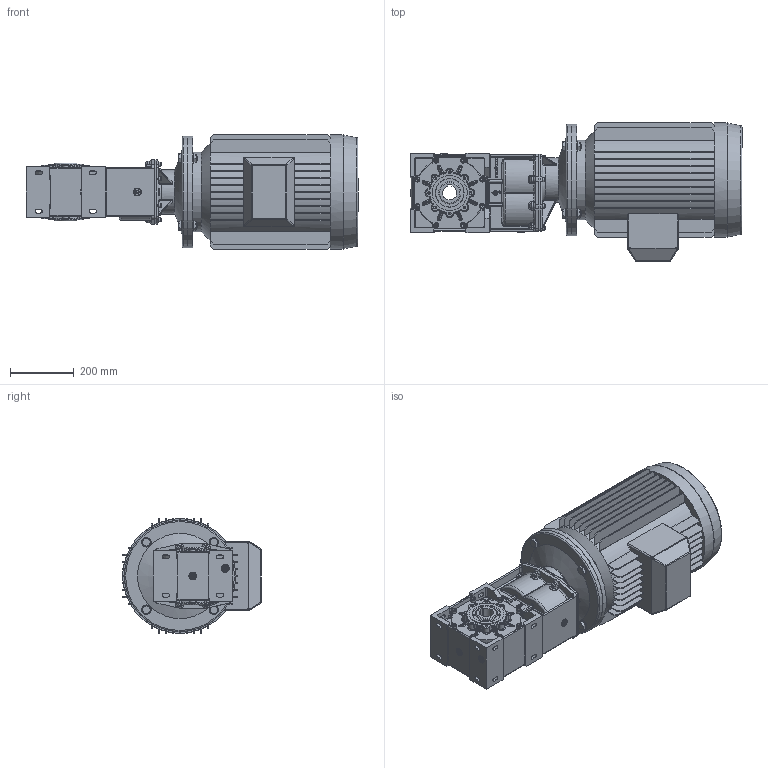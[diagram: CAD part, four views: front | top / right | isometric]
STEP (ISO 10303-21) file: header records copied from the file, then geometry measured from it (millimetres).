
FILE_DESCRIPTION((''),'2;1');
FILE_NAME('F:\Ghirri\3D\MO_RO40\Assiemi\MO40_2s-B5_160L.stp','2006-02-01T16:17:45',('Stefano'),(''),'Autodesk Inventor 10','Autodesk Inventor 10','');
FILE_SCHEMA(('AUTOMOTIVE_DESIGN { 1 0 10303 214 1 1 1 1 }'));
Length unit declared in the file: millimetre
Products named in the file (18): MO40_2s-B5_160L; Primario_MO40_2S; 3904001-A0; 3904002-A0; 3904003-A0; 3904009-A0; DIN 3760 AS AS - 70 x 90 x 10 - NBR; Guarnizione 3_8 GAS; Tappo 3_8 GAS_esagn_incsst; UNI 5931  M 10 x  25; UNI 8839 A 8; UNI 5931  M 8 x  30; motori B5 160L; FM_MRV70_D=350; UNI 5738  M16 x 1.5 x 50; UNI 6593 18 x 30; UNI 5589  M16
Assembly tree (60 placements, depth 3):
  MO40_2s-B5_160L
    Primario_MO40_2S
      3904001-A0
      3904002-A0
      3904003-A0
      3904009-A0
      DIN 3760 AS AS - 70 x 90 x 10 - NBR  x2
      Guarnizione 3_8 GAS  x5
      Tappo 3_8 GAS_esagn_incsst  x5
      UNI 5931  M 10 x  25  x8
      UNI 8839 A 8  x8
      UNI 5931  M 8 x  30  x8
    motori B5 160L
    FM_MRV70_D=350
      FM_MRV70_D=350
      UNI 5738  M16 x 1.5 x 50  x4
      UNI 6593 18 x 30  x8
      UNI 5589  M16  x4
Bounding box: 1044 x 435 x 360 mm (x, y, z)
Volume: 61800002.3 mm3; surface area: 3006934.7 mm2
Topology: 58 solids, 59 shells, 3247 faces, 8141 edges, 5060 vertices
Faces by surface type: plane 1308, cylinder 933, bspline 798, cone 150, torus 54, sphere 4
Full cylindrical faces by diameter (mm): 8 x10, 8.5 x8, 10 x8, 10.5 x8, 13 x8, 14.95 x1, 16 x12, 16.3 x5, 16.5 x5, 18 x8, 19 x4, 20 x6, 22 x10, 23 x4, 25 x1, 30 x8, 42 x1, 70 x2, 76 x2, 85 x2, 90 x5, 100 x2, 110 x2, 140 x2, 194.4 x1, 200 x3, 250 x3, 350 x2, 360 x1
Entity records: 140930 total; most frequent: CARTESIAN_POINT 77394, ORIENTED_EDGE 13390, DIRECTION 12588, EDGE_CURVE 6695, AXIS2_PLACEMENT_3D 4613, VERTEX_POINT 4278, VECTOR 3362, LINE 3362
